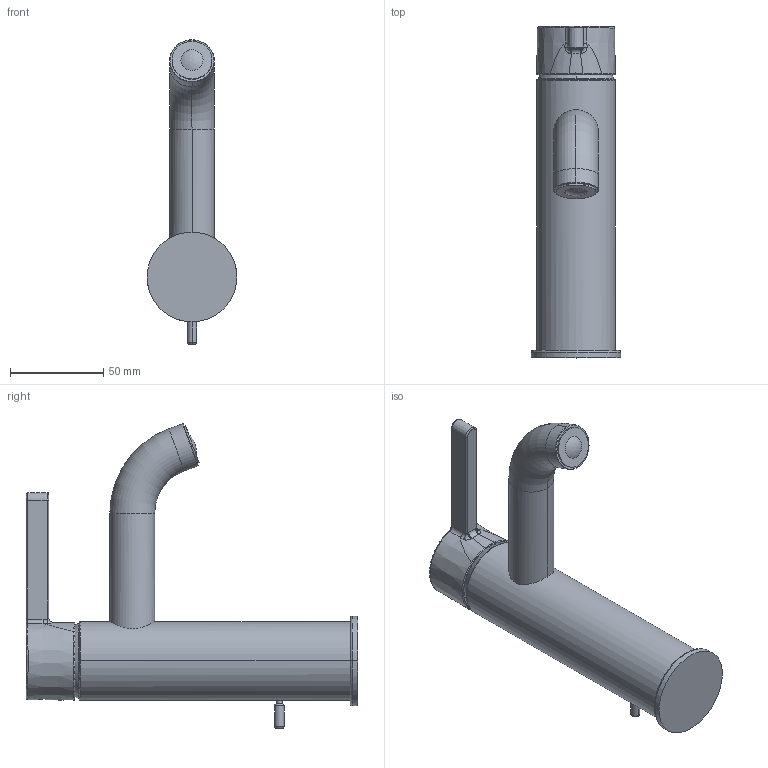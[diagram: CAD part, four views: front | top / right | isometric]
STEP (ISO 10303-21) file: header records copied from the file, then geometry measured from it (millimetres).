
FILE_DESCRIPTION((''),'2;1');
FILE_NAME('12421031','2018-10-02T',('DB991'),(''),'CREO PARAMETRIC BY PTC INC, 2016260','CREO PARAMETRIC BY PTC INC, 2016260','');
FILE_SCHEMA(('CONFIG_CONTROL_DESIGN'));
Length unit declared in the file: millimetre
Products named in the file (1): 12421031
Bounding box: 48 x 177.5 x 162.98 mm (x, y, z)
Volume: 303871.2 mm3; surface area: 39344.8 mm2
Topology: 1 solids, 2 shells, 95 faces, 259 edges, 171 vertices
Faces by surface type: cylinder 29, torus 27, bspline 17, plane 11, cone 7, sphere 4
Entity records: 4639 total; most frequent: CARTESIAN_POINT 2246, ORIENTED_EDGE 512, DIRECTION 498, EDGE_CURVE 256, AXIS2_PLACEMENT_3D 228, VERTEX_POINT 171, CIRCLE 150, EDGE_LOOP 103
